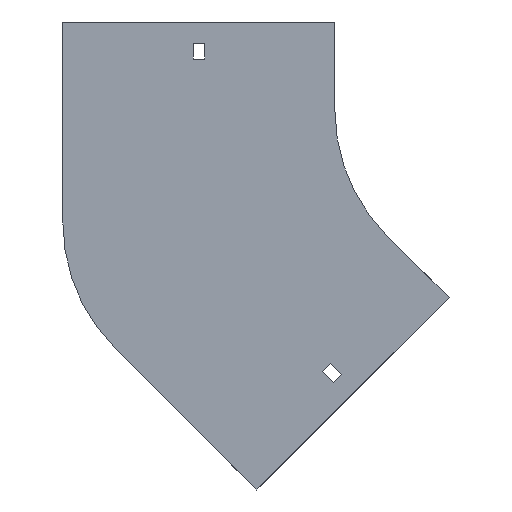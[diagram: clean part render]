
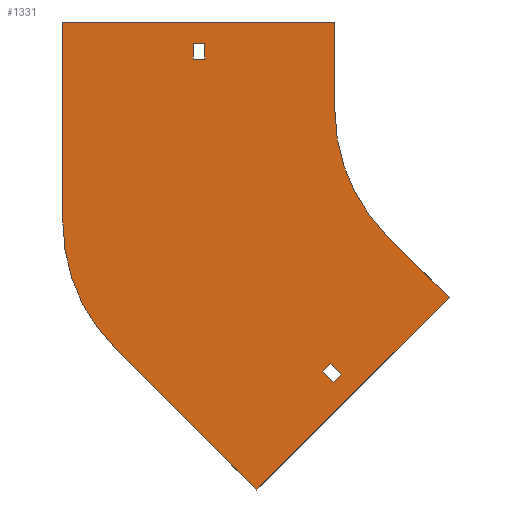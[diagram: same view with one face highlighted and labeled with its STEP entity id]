
A CAD part, front view. The second image highlights one B-rep face of the part: STEP entity #1331.
In plain terms, the highlighted planar face has unit normal (0, -1, 0).
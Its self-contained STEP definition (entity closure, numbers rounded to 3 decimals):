
#6 = LINE ( 'NONE', #425, #416 ) ;
#15 = CARTESIAN_POINT ( 'NONE',  ( -254., 0., 50. ) ) ;
#18 = CARTESIAN_POINT ( 'NONE',  ( -70.711, 0., -70.711 ) ) ;
#21 = EDGE_CURVE ( 'NONE', #1248, #1030, #1056, .T. ) ;
#32 = DIRECTION ( 'NONE',  ( 0., 0., -1. ) ) ;
#43 = ORIENTED_EDGE ( 'NONE', *, *, #334, .T. ) ;
#59 = ORIENTED_EDGE ( 'NONE', *, *, #931, .F. ) ;
#70 = CARTESIAN_POINT ( 'NONE',  ( -173.75, 0., 29. ) ) ;
#84 = EDGE_LOOP ( 'NONE', ( #970, #1384, #163, #199, #470, #59, #522, #260 ) ) ;
#105 = VERTEX_POINT ( 'NONE', #698 ) ;
#106 = DIRECTION ( 'NONE',  ( 1., 0., 0. ) ) ;
#124 = CARTESIAN_POINT ( 'NONE',  ( -144.25, 0., -214.96 ) ) ;
#127 = EDGE_CURVE ( 'NONE', #700, #1035, #656, .T. ) ;
#135 = VERTEX_POINT ( 'NONE', #1313 ) ;
#140 = ORIENTED_EDGE ( 'NONE', *, *, #1130, .F. ) ;
#142 = VERTEX_POINT ( 'NONE', #316 ) ;
#151 = LINE ( 'NONE', #607, #868 ) ;
#163 = ORIENTED_EDGE ( 'NONE', *, *, #582, .F. ) ;
#171 = CARTESIAN_POINT ( 'NONE',  ( -70.711, 0., -70.711 ) ) ;
#183 = CARTESIAN_POINT ( 'NONE',  ( -106.95, 0., -147.962 ) ) ;
#188 = CARTESIAN_POINT ( 'NONE',  ( -180.25, 0., 29. ) ) ;
#191 = CARTESIAN_POINT ( 'NONE',  ( 0., 0., 0. ) ) ;
#199 = ORIENTED_EDGE ( 'NONE', *, *, #313, .F. ) ;
#220 = CARTESIAN_POINT ( 'NONE',  ( -95.99, 0., -149.73 ) ) ;
#256 = EDGE_LOOP ( 'NONE', ( #956, #1021, #1196, #43 ) ) ;
#260 = ORIENTED_EDGE ( 'NONE', *, *, #1392, .F. ) ;
#267 = LINE ( 'NONE', #681, #859 ) ;
#276 = LINE ( 'NONE', #171, #927 ) ;
#285 = CARTESIAN_POINT ( 'NONE',  ( -144.25, 0., -214.96 ) ) ;
#288 = EDGE_CURVE ( 'NONE', #1133, #135, #534, .T. ) ;
#296 = CARTESIAN_POINT ( 'NONE',  ( -102.354, 0., -143.366 ) ) ;
#313 = EDGE_CURVE ( 'NONE', #1035, #472, #754, .T. ) ;
#316 = CARTESIAN_POINT ( 'NONE',  ( -173.75, 0., 38. ) ) ;
#334 = EDGE_CURVE ( 'NONE', #1371, #1006, #1071, .T. ) ;
#357 = CARTESIAN_POINT ( 'NONE',  ( -180.25, 0., 29. ) ) ;
#370 = LINE ( 'NONE', #819, #836 ) ;
#382 = DIRECTION ( 'NONE',  ( 0., 0., -1. ) ) ;
#384 = DIRECTION ( 'NONE',  ( 0.707, 0., 0.707 ) ) ;
#392 = DIRECTION ( 'NONE',  ( 0., 1., 0. ) ) ;
#407 = EDGE_CURVE ( 'NONE', #817, #142, #6, .T. ) ;
#416 = VECTOR ( 'NONE', #1192, 1000. ) ;
#425 = CARTESIAN_POINT ( 'NONE',  ( -180.25, 0., 38. ) ) ;
#470 = ORIENTED_EDGE ( 'NONE', *, *, #127, .F. ) ;
#472 = VERTEX_POINT ( 'NONE', #594 ) ;
#473 = EDGE_CURVE ( 'NONE', #1006, #817, #1023, .T. ) ;
#493 = DIRECTION ( 'NONE',  ( -0.707, 0., -0.707 ) ) ;
#522 = ORIENTED_EDGE ( 'NONE', *, *, #21, .F. ) ;
#534 = LINE ( 'NONE', #296, #1267 ) ;
#536 = EDGE_CURVE ( 'NONE', #135, #1332, #151, .T. ) ;
#549 = AXIS2_PLACEMENT_3D ( 'NONE', #191, #858, #1285 ) ;
#552 = DIRECTION ( 'NONE',  ( -0.707, 0., -0.707 ) ) ;
#562 = VECTOR ( 'NONE', #106, 1000. ) ;
#582 = EDGE_CURVE ( 'NONE', #472, #1273, #773, .T. ) ;
#592 = ORIENTED_EDGE ( 'NONE', *, *, #947, .F. ) ;
#594 = CARTESIAN_POINT ( 'NONE',  ( -224.711, 0., -134.5 ) ) ;
#607 = CARTESIAN_POINT ( 'NONE',  ( -106.95, 0., -147.962 ) ) ;
#637 = EDGE_CURVE ( 'NONE', #1202, #105, #873, .T. ) ;
#650 = EDGE_LOOP ( 'NONE', ( #592, #140, #890, #842 ) ) ;
#651 = CARTESIAN_POINT ( 'NONE',  ( -254., 0., 50. ) ) ;
#653 = CARTESIAN_POINT ( 'NONE',  ( -180.25, 0., 29. ) ) ;
#656 = LINE ( 'NONE', #1018, #767 ) ;
#665 = CARTESIAN_POINT ( 'NONE',  ( 0., 0., 0. ) ) ;
#681 = CARTESIAN_POINT ( 'NONE',  ( -106.95, 0., -147.962 ) ) ;
#690 = CARTESIAN_POINT ( 'NONE',  ( -100.586, 0., -154.326 ) ) ;
#698 = CARTESIAN_POINT ( 'NONE',  ( -100., 0., 50. ) ) ;
#700 = VERTEX_POINT ( 'NONE', #1265 ) ;
#707 = DIRECTION ( 'NONE',  ( 0.707, 0., -0.707 ) ) ;
#709 = AXIS2_PLACEMENT_3D ( 'NONE', #1404, #392, #844 ) ;
#754 = LINE ( 'NONE', #285, #841 ) ;
#767 = VECTOR ( 'NONE', #552, 1000. ) ;
#771 = VECTOR ( 'NONE', #1398, 1000. ) ;
#773 = CIRCLE ( 'NONE', #709, 100. ) ;
#776 = DIRECTION ( 'NONE',  ( 0., -1., 0. ) ) ;
#797 = CARTESIAN_POINT ( 'NONE',  ( -180.25, 0., 38. ) ) ;
#817 = VERTEX_POINT ( 'NONE', #797 ) ;
#819 = CARTESIAN_POINT ( 'NONE',  ( -254., 0., -63.789 ) ) ;
#827 = CARTESIAN_POINT ( 'NONE',  ( -173.75, 0., 29. ) ) ;
#836 = VECTOR ( 'NONE', #1259, 1000. ) ;
#841 = VECTOR ( 'NONE', #1052, 1000. ) ;
#842 = ORIENTED_EDGE ( 'NONE', *, *, #288, .F. ) ;
#844 = DIRECTION ( 'NONE',  ( 0., 0., 1. ) ) ;
#850 = FACE_BOUND ( 'NONE', #650, .T. ) ;
#858 = DIRECTION ( 'NONE',  ( 0., -1., 0. ) ) ;
#859 = VECTOR ( 'NONE', #998, 1000. ) ;
#868 = VECTOR ( 'NONE', #493, 1000. ) ;
#873 = LINE ( 'NONE', #651, #562 ) ;
#890 = ORIENTED_EDGE ( 'NONE', *, *, #536, .F. ) ;
#896 = CARTESIAN_POINT ( 'NONE',  ( -254., 0., -63.789 ) ) ;
#901 = VECTOR ( 'NONE', #1263, 1000. ) ;
#912 = VECTOR ( 'NONE', #1230, 1000. ) ;
#927 = VECTOR ( 'NONE', #707, 1000. ) ;
#931 = EDGE_CURVE ( 'NONE', #1030, #700, #276, .T. ) ;
#947 = EDGE_CURVE ( 'NONE', #1008, #1133, #1142, .T. ) ;
#953 = FACE_OUTER_BOUND ( 'NONE', #84, .T. ) ;
#956 = ORIENTED_EDGE ( 'NONE', *, *, #473, .T. ) ;
#970 = ORIENTED_EDGE ( 'NONE', *, *, #637, .F. ) ;
#998 = DIRECTION ( 'NONE',  ( 0.707, 0., -0.707 ) ) ;
#1006 = VERTEX_POINT ( 'NONE', #653 ) ;
#1008 = VERTEX_POINT ( 'NONE', #1084 ) ;
#1018 = CARTESIAN_POINT ( 'NONE',  ( -35.355, 0., -106.066 ) ) ;
#1021 = ORIENTED_EDGE ( 'NONE', *, *, #407, .T. ) ;
#1023 = LINE ( 'NONE', #357, #912 ) ;
#1030 = VERTEX_POINT ( 'NONE', #18 ) ;
#1035 = VERTEX_POINT ( 'NONE', #124 ) ;
#1036 = CARTESIAN_POINT ( 'NONE',  ( -100., 0., 50. ) ) ;
#1052 = DIRECTION ( 'NONE',  ( -0.707, 0., 0.707 ) ) ;
#1056 = CIRCLE ( 'NONE', #1264, 100. ) ;
#1071 = LINE ( 'NONE', #188, #771 ) ;
#1084 = CARTESIAN_POINT ( 'NONE',  ( -100.586, 0., -154.326 ) ) ;
#1130 = EDGE_CURVE ( 'NONE', #1332, #1008, #267, .T. ) ;
#1133 = VERTEX_POINT ( 'NONE', #220 ) ;
#1141 = LINE ( 'NONE', #1036, #1399 ) ;
#1142 = LINE ( 'NONE', #690, #1326 ) ;
#1161 = DIRECTION ( 'NONE',  ( -0.707, 0., 0.707 ) ) ;
#1182 = FACE_BOUND ( 'NONE', #256, .T. ) ;
#1192 = DIRECTION ( 'NONE',  ( 1., 0., 0. ) ) ;
#1196 = ORIENTED_EDGE ( 'NONE', *, *, #1333, .T. ) ;
#1202 = VERTEX_POINT ( 'NONE', #15 ) ;
#1230 = DIRECTION ( 'NONE',  ( 0., 0., 1. ) ) ;
#1248 = VERTEX_POINT ( 'NONE', #1303 ) ;
#1259 = DIRECTION ( 'NONE',  ( 0., 0., 1. ) ) ;
#1263 = DIRECTION ( 'NONE',  ( 0., 0., -1. ) ) ;
#1264 = AXIS2_PLACEMENT_3D ( 'NONE', #665, #776, #32 ) ;
#1265 = CARTESIAN_POINT ( 'NONE',  ( -35.355, 0., -106.066 ) ) ;
#1267 = VECTOR ( 'NONE', #1161, 1000. ) ;
#1273 = VERTEX_POINT ( 'NONE', #896 ) ;
#1285 = DIRECTION ( 'NONE',  ( 0., 0., -1. ) ) ;
#1303 = CARTESIAN_POINT ( 'NONE',  ( -100., 0., 0. ) ) ;
#1313 = CARTESIAN_POINT ( 'NONE',  ( -102.354, 0., -143.366 ) ) ;
#1326 = VECTOR ( 'NONE', #384, 1000. ) ;
#1331 = ADVANCED_FACE ( 'NONE', ( #1182, #953, #850 ), #1390, .T. ) ;
#1332 = VERTEX_POINT ( 'NONE', #183 ) ;
#1333 = EDGE_CURVE ( 'NONE', #142, #1371, #1365, .T. ) ;
#1365 = LINE ( 'NONE', #827, #901 ) ;
#1370 = EDGE_CURVE ( 'NONE', #1273, #1202, #370, .T. ) ;
#1371 = VERTEX_POINT ( 'NONE', #70 ) ;
#1384 = ORIENTED_EDGE ( 'NONE', *, *, #1370, .F. ) ;
#1390 = PLANE ( 'NONE',  #549 ) ;
#1392 = EDGE_CURVE ( 'NONE', #105, #1248, #1141, .T. ) ;
#1398 = DIRECTION ( 'NONE',  ( -1., 0., 0. ) ) ;
#1399 = VECTOR ( 'NONE', #382, 1000. ) ;
#1404 = CARTESIAN_POINT ( 'NONE',  ( -154., 0., -63.789 ) ) ;
